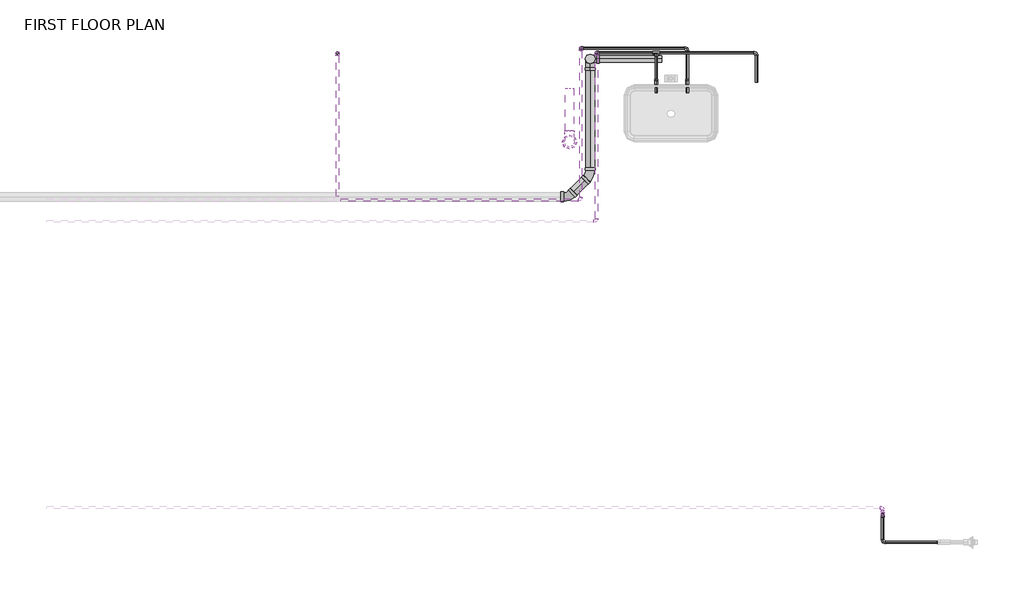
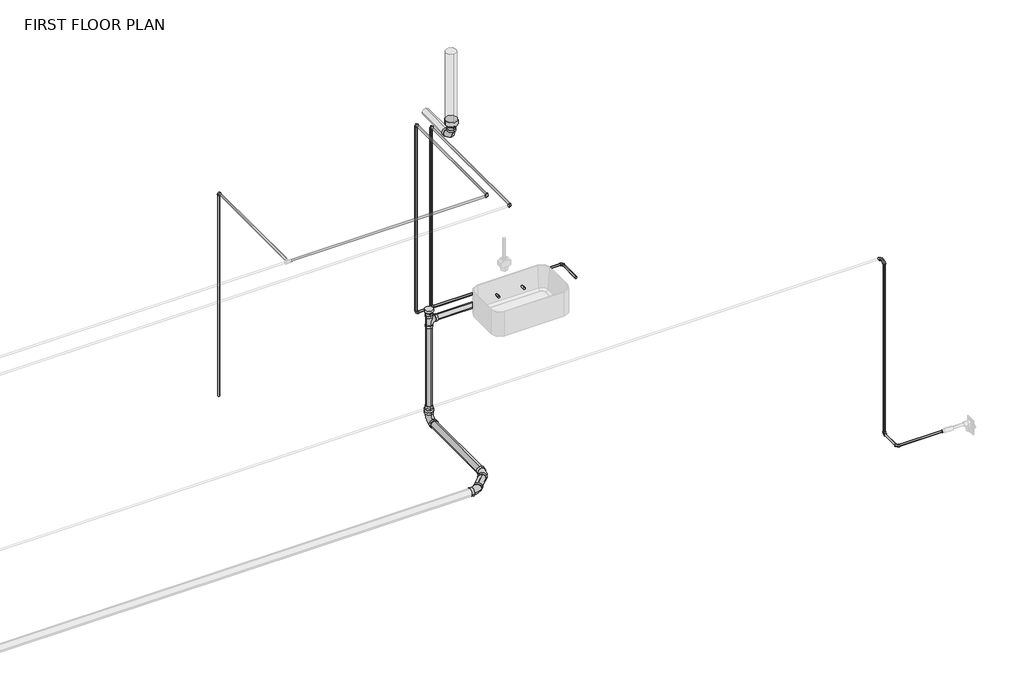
# One storey, part 5 of 5: 27 pipe fittings, 27 pipe segments.
"""IFC4 building model written with IfcOpenShell, lengths in millimetres."""

from ifc_helpers import new_model, si_unit, point, frame, frame_2d, origin, place, context, project, spatial, circle_curve, trimmed, segment, composite_curve, outline, extrude, transform, mapped, element, save
from components import bend_pvc_sch_40_dwv_standard_1eaeee76, bend_pvc_sch_40_dwv_standard_fdf790a6, bend_pvc_sch_40_dwv_standard_f5a66049, pipe_elbow_copper_k_aad62f2d, pipe_elbow_copper_k_6db47918, pipe_tee_copper_k_1a6ca384, pipe_transition_copper_k_7620e501, reducer_pvc_sch_40_dwv_standard_b23fa098, reducer_pvc_sch_40_dwv_standard_230e9924, reducer_pvc_sch_40_dwv_standard_44865e00, tee_sanitary_pvc_sch_40_dwv_standard_b95f781d

model = new_model("IFC4")

# Units and contexts
model_context = context("Model", 3, world=origin())
ifc_project = project(units=[si_unit("LENGTHUNIT", "METRE", prefix="MILLI")], contexts=[model_context])

# Site, building, storey
site = spatial("IfcSite", under=ifc_project)
building = spatial("IfcBuilding", under=site)
storey = spatial("IfcBuildingStorey", under=building, Name="FIRST FLOOR PLAN", Elevation=0.0)

# Pipe fittings
placement = place(None, origin())
bend_pvc_sch_40_dwv_standard_shape = bend_pvc_sch_40_dwv_standard_1eaeee76(model_context)
element("IfcPipeFitting", 1, ObjectType="Bend - PVC - Sch 40 - DWV : Standard", at=placement, inside=storey, context=model_context, shape_type="MappedRepresentation", body=[
    mapped(bend_pvc_sch_40_dwv_standard_shape, transform((123.6124949, 5544.3293502, -311.2949136), x_axis=(0.0, 0.0, -1.0), y_axis=(0.0, -1.0, 0.0), z_axis=(-1.0, 0.0, 0.0))),
])
bend_pvc_sch_40_dwv_standard_2_shape = bend_pvc_sch_40_dwv_standard_fdf790a6(model_context)
element("IfcPipeFitting", 2, ObjectType="Bend - PVC - Sch 40 - DWV : Standard", at=placement, inside=storey, context=model_context, shape_type="MappedRepresentation", body=[
    mapped(bend_pvc_sch_40_dwv_standard_2_shape, transform((-20.9709, 4968.853047, 2610.9744792), x_axis=(0.0, -0.9999457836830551, 0.010412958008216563), y_axis=(0.0, 0.010412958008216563, 0.9999457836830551), z_axis=(-1.0, 0.0, 0.0))),
])
bend_pvc_sch_40_dwv_standard_3_shape = bend_pvc_sch_40_dwv_standard_f5a66049(model_context)
element("IfcPipeFitting", 3, ObjectType="Bend - PVC - Sch 40 - DWV : Standard", at=placement, inside=storey, context=model_context, shape_type="MappedRepresentation", body=[
    mapped(bend_pvc_sch_40_dwv_standard_3_shape, transform((123.6124949, 4741.2065323, -311.2949136), x_axis=(0.707030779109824, 0.7070307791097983, 0.014661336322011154), y_axis=(-0.7068788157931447, 0.707182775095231, -0.014658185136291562), z_axis=(-0.020732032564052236, 0.0, 0.999785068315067))),
])
element("IfcPipeFitting", 4, ObjectType="Bend - PVC - Sch 40 - DWV : Standard", at=placement, inside=storey, context=model_context, shape_type="MappedRepresentation", body=[
    mapped(bend_pvc_sch_40_dwv_standard_3_shape, transform((-26.9683936, 4590.6256439, -314.4174326), x_axis=(1.0, 0.0, 0.0), y_axis=(0.0, 0.999785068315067, 0.020732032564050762), z_axis=(0.0, -0.020732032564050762, 0.999785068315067))),
])
pipe_elbow_copper_k_shape = pipe_elbow_copper_k_aad62f2d(model_context)
element("IfcPipeFitting", 5, ObjectType="Pipe Elbow : Copper- K", at=placement, inside=storey, context=model_context, shape_type="MappedRepresentation", body=[
    mapped(pipe_elbow_copper_k_shape, transform((165.6690598, 5587.2176405, 2263.2789062), x_axis=(0.0, 1.0, 0.0), y_axis=(0.0, 0.0, -1.0), z_axis=(-1.0, 0.0, 0.0))),
])
element("IfcPipeFitting", 6, ObjectType="Pipe Elbow : Copper- K", at=placement, inside=storey, context=model_context, shape_type="MappedRepresentation", body=[
    mapped(pipe_elbow_copper_k_shape, transform((57.8380491, 5618.9676405, 2298.2390728), x_axis=(0.0, 1.0, 0.0), y_axis=(0.0, 0.0, -1.0), z_axis=(-1.0, 0.0, 0.0))),
])
element("IfcPipeFitting", 7, ObjectType="Pipe Elbow : Copper- K", at=placement, inside=storey, context=model_context, shape_type="MappedRepresentation", body=[
    mapped(pipe_elbow_copper_k_shape, transform((57.8380491, 4569.6275273, 2298.2390728), x_axis=(1.0, 0.0, 0.0), y_axis=(0.0, 1.0, 0.0), z_axis=(0.0, 0.0, 1.0))),
])
element("IfcPipeFitting", 8, ObjectType="Pipe Elbow : Copper- K", at=placement, inside=storey, context=model_context, shape_type="MappedRepresentation", body=[
    mapped(pipe_elbow_copper_k_shape, transform((165.6690598, 4421.9926405, 2263.2789062), x_axis=(1.0, 0.0, 0.0), y_axis=(0.0, 1.0, 0.0), z_axis=(0.0, 0.0, 1.0))),
])
element("IfcPipeFitting", 9, ObjectType="Pipe Elbow : Copper- K", at=placement, inside=storey, context=model_context, shape_type="MappedRepresentation", body=[
    mapped(pipe_elbow_copper_k_shape, transform((-1625.4715551, 5585.6301405, 2298.2390728), x_axis=(0.0, 0.0, 1.0), y_axis=(0.0, -1.0, 0.0), z_axis=(1.0, 0.0, 0.0))),
])
element("IfcPipeFitting", 10, ObjectType="Pipe Elbow : Copper- K", at=placement, inside=storey, context=model_context, shape_type="MappedRepresentation", body=[
    mapped(pipe_elbow_copper_k_shape, transform((2144.6737513, 2391.8144205, 2298.2390728), x_axis=(0.0, -1.0, 0.0), y_axis=(0.0, 0.0, -1.0), z_axis=(1.0, 0.0, 0.0))),
])
element("IfcPipeFitting", 11, ObjectType="Pipe Elbow : Copper- K", at=placement, inside=storey, context=model_context, shape_type="MappedRepresentation", body=[
    mapped(pipe_elbow_copper_k_shape, transform((2144.6737513, 2391.8144205, 765.96875), x_axis=(0.0, 0.0, -1.0), y_axis=(0.0, -1.0, 0.0), z_axis=(-1.0, 0.0, 0.0))),
])
element("IfcPipeFitting", 12, ObjectType="Pipe Elbow : Copper- K", at=placement, inside=storey, context=model_context, shape_type="MappedRepresentation", body=[
    mapped(pipe_elbow_copper_k_shape, transform((2144.6737513, 2202.6342063, 765.96875), x_axis=(0.0, -1.0, 0.0), y_axis=(1.0, 0.0, 0.0), z_axis=(0.0, 0.0, 1.0))),
])
element("IfcPipeFitting", 13, ObjectType="Pipe Elbow : Copper- K", at=placement, inside=storey, context=model_context, shape_type="MappedRepresentation", body=[
    mapped(pipe_elbow_copper_k_shape, transform((2144.6737513, 2442.6144205, 2298.2390728), x_axis=(0.0, 1.0, 0.0), y_axis=(-1.0, 0.0, 0.0), z_axis=(0.0, 0.0, 1.0))),
])
element("IfcPipeFitting", 14, ObjectType="Pipe Elbow : Copper- K", at=placement, inside=storey, context=model_context, shape_type="MappedRepresentation", body=[
    mapped(pipe_elbow_copper_k_shape, transform((165.6690598, 5587.2176405, 647.9894589), x_axis=(0.0, 0.0, -1.0), y_axis=(1.0, 0.0, 0.0), z_axis=(0.0, -1.0, 0.0))),
])
element("IfcPipeFitting", 15, ObjectType="Pipe Elbow : Copper- K", at=placement, inside=storey, context=model_context, shape_type="MappedRepresentation", body=[
    mapped(pipe_elbow_copper_k_shape, transform((57.8380491, 5618.9676405, 617.267886), x_axis=(0.0, 0.0, -1.0), y_axis=(1.0, 0.0, 0.0), z_axis=(0.0, -1.0, 0.0))),
])
element("IfcPipeFitting", 16, ObjectType="Pipe Elbow : Copper- K", at=placement, inside=storey, context=model_context, shape_type="MappedRepresentation", body=[
    mapped(pipe_elbow_copper_k_shape, transform((794.4380491, 5618.9676405, 617.267886), x_axis=(0.0, 1.0, 0.0), y_axis=(-1.0, 0.0, 0.0), z_axis=(0.0, 0.0, 1.0))),
])
element("IfcPipeFitting", 17, ObjectType="Pipe Elbow : Copper- K", at=placement, inside=storey, context=model_context, shape_type="MappedRepresentation", body=[
    mapped(pipe_elbow_copper_k_shape, transform((794.4380491, 5387.1926405, 617.267886), x_axis=(0.0, -1.0, 0.0), y_axis=(0.0, 0.0, 1.0), z_axis=(-1.0, 0.0, 0.0))),
])
element("IfcPipeFitting", 18, ObjectType="Pipe Elbow : Copper- K", at=placement, inside=storey, context=model_context, shape_type="MappedRepresentation", body=[
    mapped(pipe_elbow_copper_k_shape, transform((794.4380491, 5387.1926405, 762.0), x_axis=(0.0, 0.0, 1.0), y_axis=(0.0, -1.0, 0.0), z_axis=(1.0, 0.0, 0.0))),
])
element("IfcPipeFitting", 19, ObjectType="Pipe Elbow : Copper- K", at=placement, inside=storey, context=model_context, shape_type="MappedRepresentation", body=[
    mapped(pipe_elbow_copper_k_shape, transform((578.8696873, 5387.1926405, 762.0), x_axis=(0.0, 0.0, 1.0), y_axis=(0.0, -1.0, 0.0), z_axis=(1.0, 0.0, 0.0))),
])
element("IfcPipeFitting", 20, ObjectType="Pipe Elbow : Copper- K", at=placement, inside=storey, context=model_context, shape_type="MappedRepresentation", body=[
    mapped(pipe_elbow_copper_k_shape, transform((1272.6071873, 5587.2176405, 647.9976562), x_axis=(0.0, 1.0, 0.0), y_axis=(-0.9999999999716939, 0.0, -7.524112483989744e-06), z_axis=(-7.524112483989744e-06, 0.0, 0.9999999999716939))),
])
pipe_elbow_copper_k_2_shape = pipe_elbow_copper_k_6db47918(model_context)
element("IfcPipeFitting", 21, ObjectType="Pipe Elbow : Copper- K", at=placement, inside=storey, context=model_context, shape_type="MappedRepresentation", body=[
    mapped(pipe_elbow_copper_k_2_shape, transform((578.8696873, 5387.1926405, 647.9891314), x_axis=(0.0, 0.0, -1.0), y_axis=(0.0, 1.0, 0.0), z_axis=(1.0, 0.0, 0.0))),
])
pipe_tee_copper_k_shape = pipe_tee_copper_k_1a6ca384(model_context)
element("IfcPipeFitting", 22, ObjectType="Pipe Tee : Copper- K", at=placement, inside=storey, context=model_context, shape_type="MappedRepresentation", body=[
    mapped(pipe_tee_copper_k_shape, transform((578.8696873, 5587.2176405, 647.9924365), x_axis=(-0.9999999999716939, 0.0, -7.524112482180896e-06), y_axis=(0.0, 1.0, 0.0), z_axis=(7.524112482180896e-06, 0.0, -0.9999999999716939))),
])
pipe_transition_copper_k_shape = pipe_transition_copper_k_7620e501(model_context)
element("IfcPipeFitting", 23, ObjectType="Pipe Transition : Copper- K", at=placement, inside=storey, context=model_context, shape_type="MappedRepresentation", body=[
    mapped(pipe_transition_copper_k_shape, transform((2525.6636233, 2202.6342063, 765.96875), x_axis=(-1.0, 0.0, 0.0), y_axis=(0.0, -1.0, 0.0), z_axis=(0.0, 0.0, 1.0))),
])
reducer_pvc_sch_40_dwv_standard_shape = reducer_pvc_sch_40_dwv_standard_b23fa098(model_context)
element("IfcPipeFitting", 24, ObjectType="Reducer - PVC - Sch 40 - DWV : Standard", at=placement, inside=storey, context=model_context, shape_type="MappedRepresentation", body=[
    mapped(reducer_pvc_sch_40_dwv_standard_shape, transform((123.6124949, 5544.3293502, -233.4947136), x_axis=(0.0, 0.0, 1.0), y_axis=(-1.0, 0.0, 0.0), z_axis=(0.0, -1.0, 0.0))),
])
reducer_pvc_sch_40_dwv_standard_2_shape = reducer_pvc_sch_40_dwv_standard_230e9924(model_context)
element("IfcPipeFitting", 25, ObjectType="Reducer - PVC - Sch 40 - DWV : Standard", at=placement, inside=storey, context=model_context, shape_type="MappedRepresentation", body=[
    mapped(reducer_pvc_sch_40_dwv_standard_2_shape, transform((123.6124949, 5544.3293502, 623.781292), x_axis=(0.0, 0.0, 1.0), y_axis=(0.0, -1.0, 0.0), z_axis=(1.0, 0.0, 0.0))),
])
reducer_pvc_sch_40_dwv_standard_3_shape = reducer_pvc_sch_40_dwv_standard_44865e00(model_context)
element("IfcPipeFitting", 26, ObjectType="Reducer - PVC - Sch 40 - DWV : Standard", at=placement, inside=storey, context=model_context, shape_type="MappedRepresentation", body=[
    mapped(reducer_pvc_sch_40_dwv_standard_3_shape, transform((-20.9709, 4968.853047, 2688.7746792), x_axis=(0.0, 0.0, 1.0), y_axis=(0.0, -1.0, 0.0), z_axis=(1.0, 0.0, 0.0))),
])
tee_sanitary_pvc_sch_40_dwv_standard_shape = tee_sanitary_pvc_sch_40_dwv_standard_b95f781d(model_context)
element("IfcPipeFitting", 27, ObjectType="Tee Sanitary - PVC - Sch 40 - DWV : Standard", at=placement, inside=storey, context=model_context, shape_type="MappedRepresentation", body=[
    mapped(tee_sanitary_pvc_sch_40_dwv_standard_shape, transform((123.6124949, 5544.3293502, 578.0484371), x_axis=(0.0, 0.0, 1.0), y_axis=(-1.0, 0.0, 0.0), z_axis=(0.0, -1.0, 0.0))),
])

# Pipe segments
element("IfcPipeSegment", 28, ObjectType="Copper", at=placement, inside=storey, context=model_context, shape_type="SweptSolid", body=[
    extrude(outline(composite_curve([segment(trimmed(circle_curve(frame_2d((2298.2390728, 57.8380491)), 7.9375), [point((2298.2390728, 65.7755491))], [point((2306.1765728, 57.8380491))], False, "CARTESIAN"), True, "CONTINUOUS"), segment(trimmed(circle_curve(frame_2d((2298.2390728, 57.8380491)), 7.9375), [point((2306.1765728, 57.8380491))], [point((2298.2390728, 49.9005491))], False, "CARTESIAN"), True, "CONTINUOUS"), segment(trimmed(circle_curve(frame_2d((2298.2390728, 57.8380491)), 7.9375), [point((2298.2390728, 49.9005491))], [point((2290.3015728, 57.8380491))], False, "CARTESIAN"), True, "CONTINUOUS"), segment(trimmed(circle_curve(frame_2d((2298.2390728, 57.8380491)), 7.9375), [point((2290.3015728, 57.8380491))], [point((2298.2390728, 65.7755491))], False, "CARTESIAN"), True, "CONTINUOUS")], self_intersect=False)), frame((0.0, 4587.0900273, 0.0), z_axis=(0.0, 1.0, 0.0), x_axis=(0.0, 0.0, 1.0)), (0.0, 0.0, 1.0), 1014.4151132),
])
element("IfcPipeSegment", 29, ObjectType="Copper", at=placement, inside=storey, context=model_context, shape_type="SweptSolid", body=[
    extrude(outline(composite_curve([segment(trimmed(circle_curve(frame_2d((2263.2789062, 165.6690598)), 7.9375), [point((2263.2789062, 173.6065598))], [point((2271.2164062, 165.6690598))], False, "CARTESIAN"), True, "CONTINUOUS"), segment(trimmed(circle_curve(frame_2d((2263.2789062, 165.6690598)), 7.9375), [point((2271.2164062, 165.6690598))], [point((2263.2789062, 157.7315598))], False, "CARTESIAN"), True, "CONTINUOUS"), segment(trimmed(circle_curve(frame_2d((2263.2789062, 165.6690598)), 7.9375), [point((2263.2789062, 157.7315598))], [point((2255.3414062, 165.6690598))], False, "CARTESIAN"), True, "CONTINUOUS"), segment(trimmed(circle_curve(frame_2d((2263.2789062, 165.6690598)), 7.9375), [point((2255.3414062, 165.6690598))], [point((2263.2789062, 173.6065598))], False, "CARTESIAN"), True, "CONTINUOUS")], self_intersect=False)), frame((0.0, 4439.4551405, 0.0), z_axis=(0.0, 1.0, 0.0), x_axis=(0.0, 0.0, 1.0)), (0.0, 0.0, 1.0), 1130.3),
])
element("IfcPipeSegment", 30, ObjectType="Copper", at=placement, inside=storey, context=model_context, shape_type="SweptSolid", body=[
    extrude(outline(composite_curve([segment(trimmed(circle_curve(frame_2d((165.6690598, 5587.2176405)), 7.9375), [point((173.6065598, 5587.2176405))], [point((165.6690598, 5579.2801405))], False, "CARTESIAN"), True, "CONTINUOUS"), segment(trimmed(circle_curve(frame_2d((165.6690598, 5587.2176405)), 7.9375), [point((165.6690598, 5579.2801405))], [point((157.7315598, 5587.2176405))], False, "CARTESIAN"), True, "CONTINUOUS"), segment(trimmed(circle_curve(frame_2d((165.6690598, 5587.2176405)), 7.9375), [point((157.7315598, 5587.2176405))], [point((165.6690598, 5595.1551405))], False, "CARTESIAN"), True, "CONTINUOUS"), segment(trimmed(circle_curve(frame_2d((165.6690598, 5587.2176405)), 7.9375), [point((165.6690598, 5595.1551405))], [point((173.6065598, 5587.2176405))], False, "CARTESIAN"), True, "CONTINUOUS")], self_intersect=False)), frame((0.0, 0.0, 665.4519589), z_axis=(0.0, 0.0, 1.0), x_axis=(1.0, 0.0, 0.0)), (0.0, 0.0, 1.0), 1580.3644473),
])
element("IfcPipeSegment", 31, ObjectType="Copper", at=placement, inside=storey, context=model_context, shape_type="SweptSolid", body=[
    extrude(outline(composite_curve([segment(trimmed(circle_curve(frame_2d((57.8380491, 5618.9676405)), 7.9375), [point((65.7755491, 5618.9676405))], [point((57.8380491, 5611.0301405))], False, "CARTESIAN"), True, "CONTINUOUS"), segment(trimmed(circle_curve(frame_2d((57.8380491, 5618.9676405)), 7.9375), [point((57.8380491, 5611.0301405))], [point((49.9005491, 5618.9676405))], False, "CARTESIAN"), True, "CONTINUOUS"), segment(trimmed(circle_curve(frame_2d((57.8380491, 5618.9676405)), 7.9375), [point((49.9005491, 5618.9676405))], [point((57.8380491, 5626.9051405))], False, "CARTESIAN"), True, "CONTINUOUS"), segment(trimmed(circle_curve(frame_2d((57.8380491, 5618.9676405)), 7.9375), [point((57.8380491, 5626.9051405))], [point((65.7755491, 5618.9676405))], False, "CARTESIAN"), True, "CONTINUOUS")], self_intersect=False)), frame((0.0, 0.0, 634.730386), z_axis=(0.0, 0.0, 1.0), x_axis=(1.0, 0.0, 0.0)), (0.0, 0.0, 1.0), 1646.0461868),
])
element("IfcPipeSegment", 32, ObjectType="Copper", at=placement, inside=storey, context=model_context, shape_type="SweptSolid", body=[
    extrude(outline(composite_curve([segment(trimmed(circle_curve(frame_2d((2298.2390728, -1625.4715551)), 7.9375), [point((2298.2390728, -1633.4090551))], [point((2290.3015728, -1625.4715551))], False, "CARTESIAN"), True, "CONTINUOUS"), segment(trimmed(circle_curve(frame_2d((2298.2390728, -1625.4715551)), 7.9375), [point((2290.3015728, -1625.4715551))], [point((2298.2390728, -1617.5340551))], False, "CARTESIAN"), True, "CONTINUOUS"), segment(trimmed(circle_curve(frame_2d((2298.2390728, -1625.4715551)), 7.9375), [point((2298.2390728, -1617.5340551))], [point((2306.1765728, -1625.4715551))], False, "CARTESIAN"), True, "CONTINUOUS"), segment(trimmed(circle_curve(frame_2d((2298.2390728, -1625.4715551)), 7.9375), [point((2306.1765728, -1625.4715551))], [point((2298.2390728, -1633.4090551))], False, "CARTESIAN"), True, "CONTINUOUS")], self_intersect=False)), frame((0.0, 4593.4400273, 0.0), z_axis=(0.0, 1.0, 0.0), x_axis=(0.0, 0.0, 1.0)), (0.0, 0.0, 1.0), 974.7276132),
])
element("IfcPipeSegment", 33, ObjectType="Copper", at=placement, inside=storey, context=model_context, shape_type="SweptSolid", body=[
    extrude(outline(composite_curve([segment(trimmed(circle_curve(frame_2d((-1625.4715551, 5585.6301405)), 7.9375), [point((-1617.5340551, 5585.6301405))], [point((-1625.4715551, 5577.6926405))], False, "CARTESIAN"), True, "CONTINUOUS"), segment(trimmed(circle_curve(frame_2d((-1625.4715551, 5585.6301405)), 7.9375), [point((-1625.4715551, 5577.6926405))], [point((-1633.4090551, 5585.6301405))], False, "CARTESIAN"), True, "CONTINUOUS"), segment(trimmed(circle_curve(frame_2d((-1625.4715551, 5585.6301405)), 7.9375), [point((-1633.4090551, 5585.6301405))], [point((-1625.4715551, 5593.5676405))], False, "CARTESIAN"), True, "CONTINUOUS"), segment(trimmed(circle_curve(frame_2d((-1625.4715551, 5585.6301405)), 7.9375), [point((-1625.4715551, 5593.5676405))], [point((-1617.5340551, 5585.6301405))], False, "CARTESIAN"), True, "CONTINUOUS")], self_intersect=False)), frame((0.0, 0.0, 485.2789063), z_axis=(0.0, 0.0, 1.0), x_axis=(1.0, 0.0, 0.0)), (0.0, 0.0, 1.0), 1795.4976666),
])
element("IfcPipeSegment", 34, ObjectType="Copper", at=placement, inside=storey, context=model_context, shape_type="SweptSolid", body=[
    extrude(outline(composite_curve([segment(trimmed(circle_curve(frame_2d((4569.6275273, 2298.2390728)), 7.9375), [point((4577.5650273, 2298.2390728))], [point((4569.6275273, 2290.3015728))], False, "CARTESIAN"), True, "CONTINUOUS"), segment(trimmed(circle_curve(frame_2d((4569.6275273, 2298.2390728)), 7.9375), [point((4569.6275273, 2290.3015728))], [point((4561.6900273, 2298.2390728))], False, "CARTESIAN"), True, "CONTINUOUS"), segment(trimmed(circle_curve(frame_2d((4569.6275273, 2298.2390728)), 7.9375), [point((4561.6900273, 2298.2390728))], [point((4569.6275273, 2306.1765728))], False, "CARTESIAN"), True, "CONTINUOUS"), segment(trimmed(circle_curve(frame_2d((4569.6275273, 2298.2390728)), 7.9375), [point((4569.6275273, 2306.1765728))], [point((4577.5650273, 2298.2390728))], False, "CARTESIAN"), True, "CONTINUOUS")], self_intersect=False)), frame((-1601.6590551, 0.0, 0.0), z_axis=(1.0, 0.0, 0.0), x_axis=(0.0, 1.0, 0.0)), (0.0, 0.0, 1.0), 1642.0346042),
])
element("IfcPipeSegment", 35, ObjectType="Copper", at=placement, inside=storey, context=model_context, shape_type="SweptSolid", body=[
    extrude(outline(composite_curve([segment(trimmed(circle_curve(frame_2d((2298.2390728, 2144.6737513)), 7.9375), [point((2298.2390728, 2136.7362513))], [point((2290.3015728, 2144.6737513))], False, "CARTESIAN"), True, "CONTINUOUS"), segment(trimmed(circle_curve(frame_2d((2298.2390728, 2144.6737513)), 7.9375), [point((2290.3015728, 2144.6737513))], [point((2298.2390728, 2152.6112513))], False, "CARTESIAN"), True, "CONTINUOUS"), segment(trimmed(circle_curve(frame_2d((2298.2390728, 2144.6737513)), 7.9375), [point((2298.2390728, 2152.6112513))], [point((2306.1765728, 2144.6737513))], False, "CARTESIAN"), True, "CONTINUOUS"), segment(trimmed(circle_curve(frame_2d((2298.2390728, 2144.6737513)), 7.9375), [point((2306.1765728, 2144.6737513))], [point((2298.2390728, 2136.7362513))], False, "CARTESIAN"), True, "CONTINUOUS")], self_intersect=False)), frame((0.0, 2409.2769205, 0.0), z_axis=(0.0, 1.0, 0.0), x_axis=(0.0, 0.0, 1.0)), (0.0, 0.0, 1.0), 15.875),
])
element("IfcPipeSegment", 36, ObjectType="Copper", at=placement, inside=storey, context=model_context, shape_type="SweptSolid", body=[
    extrude(outline(composite_curve([segment(trimmed(circle_curve(frame_2d((765.96875, 2144.6737513)), 7.9375), [point((765.96875, 2136.7362513))], [point((758.03125, 2144.6737513))], False, "CARTESIAN"), True, "CONTINUOUS"), segment(trimmed(circle_curve(frame_2d((765.96875, 2144.6737513)), 7.9375), [point((758.03125, 2144.6737513))], [point((765.96875, 2152.6112513))], False, "CARTESIAN"), True, "CONTINUOUS"), segment(trimmed(circle_curve(frame_2d((765.96875, 2144.6737513)), 7.9375), [point((765.96875, 2152.6112513))], [point((773.90625, 2144.6737513))], False, "CARTESIAN"), True, "CONTINUOUS"), segment(trimmed(circle_curve(frame_2d((765.96875, 2144.6737513)), 7.9375), [point((773.90625, 2144.6737513))], [point((765.96875, 2136.7362513))], False, "CARTESIAN"), True, "CONTINUOUS")], self_intersect=False)), frame((0.0, 2220.0967063, 0.0), z_axis=(0.0, 1.0, 0.0), x_axis=(0.0, 0.0, 1.0)), (0.0, 0.0, 1.0), 154.2552142),
])
element("IfcPipeSegment", 37, ObjectType="Copper", at=placement, inside=storey, context=model_context, shape_type="SweptSolid", body=[
    extrude(outline(composite_curve([segment(trimmed(circle_curve(frame_2d((2144.6737513, 2391.8144205)), 7.9375), [point((2152.6112513, 2391.8144205))], [point((2144.6737513, 2383.8769205))], False, "CARTESIAN"), True, "CONTINUOUS"), segment(trimmed(circle_curve(frame_2d((2144.6737513, 2391.8144205)), 7.9375), [point((2144.6737513, 2383.8769205))], [point((2136.7362513, 2391.8144205))], False, "CARTESIAN"), True, "CONTINUOUS"), segment(trimmed(circle_curve(frame_2d((2144.6737513, 2391.8144205)), 7.9375), [point((2136.7362513, 2391.8144205))], [point((2144.6737513, 2399.7519205))], False, "CARTESIAN"), True, "CONTINUOUS"), segment(trimmed(circle_curve(frame_2d((2144.6737513, 2391.8144205)), 7.9375), [point((2144.6737513, 2399.7519205))], [point((2152.6112513, 2391.8144205))], False, "CARTESIAN"), True, "CONTINUOUS")], self_intersect=False)), frame((0.0, 0.0, 783.43125), z_axis=(0.0, 0.0, 1.0), x_axis=(1.0, 0.0, 0.0)), (0.0, 0.0, 1.0), 1497.3453228),
])
element("IfcPipeSegment", 38, ObjectType="Copper", at=placement, inside=storey, context=model_context, shape_type="SweptSolid", body=[
    extrude(outline(composite_curve([segment(trimmed(circle_curve(frame_2d((2202.6342063, 765.96875)), 7.9375), [point((2210.5717063, 765.96875))], [point((2202.6342063, 758.03125))], False, "CARTESIAN"), True, "CONTINUOUS"), segment(trimmed(circle_curve(frame_2d((2202.6342063, 765.96875)), 7.9375), [point((2202.6342063, 758.03125))], [point((2194.6967063, 765.96875))], False, "CARTESIAN"), True, "CONTINUOUS"), segment(trimmed(circle_curve(frame_2d((2202.6342063, 765.96875)), 7.9375), [point((2194.6967063, 765.96875))], [point((2202.6342063, 773.90625))], False, "CARTESIAN"), True, "CONTINUOUS"), segment(trimmed(circle_curve(frame_2d((2202.6342063, 765.96875)), 7.9375), [point((2202.6342063, 773.90625))], [point((2210.5717063, 765.96875))], False, "CARTESIAN"), True, "CONTINUOUS")], self_intersect=False)), frame((2162.1362513, 0.0, 0.0), z_axis=(1.0, 0.0, 0.0), x_axis=(0.0, 1.0, 0.0)), (0.0, 0.0, 1.0), 357.971122),
])
element("IfcPipeSegment", 39, ObjectType="Copper", at=placement, inside=storey, context=model_context, shape_type="SweptSolid", body=[
    extrude(outline(composite_curve([segment(trimmed(circle_curve(frame_2d((647.9924365, 578.8696873)), 7.9375), [point((647.9924365, 570.9321873))], [point((640.0549365, 578.8696873))], False, "CARTESIAN"), True, "CONTINUOUS"), segment(trimmed(circle_curve(frame_2d((647.9924365, 578.8696873)), 7.9375), [point((640.0549365, 578.8696873))], [point((647.9924365, 586.8071873))], False, "CARTESIAN"), True, "CONTINUOUS"), segment(trimmed(circle_curve(frame_2d((647.9924365, 578.8696873)), 7.9375), [point((647.9924365, 586.8071873))], [point((655.9299365, 578.8696873))], False, "CARTESIAN"), True, "CONTINUOUS"), segment(trimmed(circle_curve(frame_2d((647.9924365, 578.8696873)), 7.9375), [point((655.9299365, 578.8696873))], [point((647.9924365, 570.9321873))], False, "CARTESIAN"), True, "CONTINUOUS")], self_intersect=False)), frame((0.0, 5404.6554681, 0.0), z_axis=(0.0, 1.0, 0.0), x_axis=(0.0, 0.0, 1.0)), (0.0, 0.0, 1.0), 158.7496725),
])
element("IfcPipeSegment", 40, ObjectType="Copper", at=placement, inside=storey, context=model_context, shape_type="SweptSolid", body=[
    extrude(outline(composite_curve([segment(trimmed(circle_curve(frame_2d((5618.9676405, 617.267886)), 7.9375), [point((5611.0301405, 617.267886))], [point((5618.9676405, 625.205386))], False, "CARTESIAN"), True, "CONTINUOUS"), segment(trimmed(circle_curve(frame_2d((5618.9676405, 617.267886)), 7.9375), [point((5618.9676405, 625.205386))], [point((5626.9051405, 617.267886))], False, "CARTESIAN"), True, "CONTINUOUS"), segment(trimmed(circle_curve(frame_2d((5618.9676405, 617.267886)), 7.9375), [point((5626.9051405, 617.267886))], [point((5618.9676405, 609.330386))], False, "CARTESIAN"), True, "CONTINUOUS"), segment(trimmed(circle_curve(frame_2d((5618.9676405, 617.267886)), 7.9375), [point((5618.9676405, 609.330386))], [point((5611.0301405, 617.267886))], False, "CARTESIAN"), True, "CONTINUOUS")], self_intersect=False)), frame((75.3005491, 0.0, 0.0), z_axis=(1.0, 0.0, 0.0), x_axis=(0.0, 1.0, 0.0)), (0.0, 0.0, 1.0), 701.675),
])
element("IfcPipeSegment", 41, ObjectType="Copper", at=placement, inside=storey, context=model_context, shape_type="SweptSolid", body=[
    extrude(outline(composite_curve([segment(trimmed(circle_curve(frame_2d((617.267886, 794.4380491)), 7.9375), [point((617.267886, 786.5005491))], [point((609.330386, 794.4380491))], False, "CARTESIAN"), True, "CONTINUOUS"), segment(trimmed(circle_curve(frame_2d((617.267886, 794.4380491)), 7.9375), [point((609.330386, 794.4380491))], [point((617.267886, 802.3755491))], False, "CARTESIAN"), True, "CONTINUOUS"), segment(trimmed(circle_curve(frame_2d((617.267886, 794.4380491)), 7.9375), [point((617.267886, 802.3755491))], [point((625.205386, 794.4380491))], False, "CARTESIAN"), True, "CONTINUOUS"), segment(trimmed(circle_curve(frame_2d((617.267886, 794.4380491)), 7.9375), [point((625.205386, 794.4380491))], [point((617.267886, 786.5005491))], False, "CARTESIAN"), True, "CONTINUOUS")], self_intersect=False)), frame((0.0, 5404.6551405, 0.0), z_axis=(0.0, 1.0, 0.0), x_axis=(0.0, 0.0, 1.0)), (0.0, 0.0, 1.0), 196.85),
])
element("IfcPipeSegment", 42, ObjectType="Copper", at=placement, inside=storey, context=model_context, shape_type="SweptSolid", body=[
    extrude(outline(composite_curve([segment(trimmed(circle_curve(frame_2d((762.0, 794.4380491)), 7.9375), [point((762.0, 786.5005491))], [point((754.0625, 794.4380491))], False, "CARTESIAN"), True, "CONTINUOUS"), segment(trimmed(circle_curve(frame_2d((762.0, 794.4380491)), 7.9375), [point((754.0625, 794.4380491))], [point((762.0, 802.3755491))], False, "CARTESIAN"), True, "CONTINUOUS"), segment(trimmed(circle_curve(frame_2d((762.0, 794.4380491)), 7.9375), [point((762.0, 802.3755491))], [point((769.9375, 794.4380491))], False, "CARTESIAN"), True, "CONTINUOUS"), segment(trimmed(circle_curve(frame_2d((762.0, 794.4380491)), 7.9375), [point((769.9375, 794.4380491))], [point((762.0, 786.5005491))], False, "CARTESIAN"), True, "CONTINUOUS")], self_intersect=False)), frame((0.0, 5310.9926405, 0.0), z_axis=(0.0, 1.0, 0.0), x_axis=(0.0, 0.0, 1.0)), (0.0, 0.0, 1.0), 58.7375),
])
element("IfcPipeSegment", 43, ObjectType="Copper", at=placement, inside=storey, context=model_context, shape_type="SweptSolid", body=[
    extrude(outline(composite_curve([segment(trimmed(circle_curve(frame_2d((794.4380491, 5387.1926405)), 7.9375), [point((786.5005491, 5387.1926405))], [point((794.4380491, 5395.1301405))], False, "CARTESIAN"), True, "CONTINUOUS"), segment(trimmed(circle_curve(frame_2d((794.4380491, 5387.1926405)), 7.9375), [point((794.4380491, 5395.1301405))], [point((802.3755491, 5387.1926405))], False, "CARTESIAN"), True, "CONTINUOUS"), segment(trimmed(circle_curve(frame_2d((794.4380491, 5387.1926405)), 7.9375), [point((802.3755491, 5387.1926405))], [point((794.4380491, 5379.2551405))], False, "CARTESIAN"), True, "CONTINUOUS"), segment(trimmed(circle_curve(frame_2d((794.4380491, 5387.1926405)), 7.9375), [point((794.4380491, 5379.2551405))], [point((786.5005491, 5387.1926405))], False, "CARTESIAN"), True, "CONTINUOUS")], self_intersect=False)), frame((0.0, 0.0, 634.730386), z_axis=(0.0, 0.0, 1.0), x_axis=(1.0, 0.0, 0.0)), (0.0, 0.0, 1.0), 109.807114),
])
element("IfcPipeSegment", 44, ObjectType="Copper", at=placement, inside=storey, context=model_context, shape_type="SweptSolid", body=[
    extrude(outline(composite_curve([segment(trimmed(circle_curve(frame_2d((762.0, 578.8696873)), 7.9375), [point((762.0, 570.9321873))], [point((754.0625, 578.8696873))], False, "CARTESIAN"), True, "CONTINUOUS"), segment(trimmed(circle_curve(frame_2d((762.0, 578.8696873)), 7.9375), [point((754.0625, 578.8696873))], [point((762.0, 586.8071873))], False, "CARTESIAN"), True, "CONTINUOUS"), segment(trimmed(circle_curve(frame_2d((762.0, 578.8696873)), 7.9375), [point((762.0, 586.8071873))], [point((769.9375, 578.8696873))], False, "CARTESIAN"), True, "CONTINUOUS"), segment(trimmed(circle_curve(frame_2d((762.0, 578.8696873)), 7.9375), [point((769.9375, 578.8696873))], [point((762.0, 570.9321873))], False, "CARTESIAN"), True, "CONTINUOUS")], self_intersect=False)), frame((0.0, 5310.9926405, 0.0), z_axis=(0.0, 1.0, 0.0), x_axis=(0.0, 0.0, 1.0)), (0.0, 0.0, 1.0), 58.7375),
])
element("IfcPipeSegment", 45, ObjectType="Copper", at=placement, inside=storey, context=model_context, shape_type="SweptSolid", body=[
    extrude(outline(composite_curve([segment(trimmed(circle_curve(frame_2d((578.8696873, 5387.1926405)), 7.9375), [point((570.9321873, 5387.1926405))], [point((578.8696873, 5395.1301405))], False, "CARTESIAN"), True, "CONTINUOUS"), segment(trimmed(circle_curve(frame_2d((578.8696873, 5387.1926405)), 7.9375), [point((578.8696873, 5395.1301405))], [point((586.8071873, 5387.1926405))], False, "CARTESIAN"), True, "CONTINUOUS"), segment(trimmed(circle_curve(frame_2d((578.8696873, 5387.1926405)), 7.9375), [point((586.8071873, 5387.1926405))], [point((578.8696873, 5379.2551405))], False, "CARTESIAN"), True, "CONTINUOUS"), segment(trimmed(circle_curve(frame_2d((578.8696873, 5387.1926405)), 7.9375), [point((578.8696873, 5379.2551405))], [point((570.9321873, 5387.1926405))], False, "CARTESIAN"), True, "CONTINUOUS")], self_intersect=False)), frame((0.0, 0.0, 665.4519589), z_axis=(0.0, 0.0, 1.0), x_axis=(1.0, 0.0, 0.0)), (0.0, 0.0, 1.0), 79.0855411),
])
element("IfcPipeSegment", 46, ObjectType="Copper", at=placement, inside=storey, context=model_context, shape_type="SweptSolid", body=[
    extrude(outline(composite_curve([segment(trimmed(circle_curve(frame_2d((0.0, 7.9375)), 7.9375), [point((-7.9375, 7.9375))], [point((0.0, 15.875))], False, "CARTESIAN"), True, "CONTINUOUS"), segment(trimmed(circle_curve(frame_2d((0.0, 7.9375)), 7.9375), [point((0.0, 15.875))], [point((7.9375, 7.9375))], False, "CARTESIAN"), True, "CONTINUOUS"), segment(trimmed(circle_curve(frame_2d((0.0, 7.9375)), 7.9375), [point((7.9375, 7.9375))], [point((0.0, 0.0))], False, "CARTESIAN"), True, "CONTINUOUS"), segment(trimmed(circle_curve(frame_2d((0.0, 7.9375)), 7.9375), [point((0.0, 0.0))], [point((-7.9375, 7.9375))], False, "CARTESIAN"), True, "CONTINUOUS")], self_intersect=False)), frame((602.682247, 5587.2176405, 640.0551157), z_axis=(0.9999999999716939, 0.0, 7.524112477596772e-06), x_axis=(0.0, 1.0, 0.0)), (0.0, 0.0, 1.0), 652.4625),
])
element("IfcPipeSegment", 47, ObjectType="Copper", at=placement, inside=storey, context=model_context, shape_type="SweptSolid", body=[
    extrude(outline(composite_curve([segment(trimmed(circle_curve(frame_2d((647.9976562, 1272.6071873)), 7.9375), [point((647.9976562, 1264.6696873))], [point((640.0601562, 1272.6071873))], False, "CARTESIAN"), True, "CONTINUOUS"), segment(trimmed(circle_curve(frame_2d((647.9976562, 1272.6071873)), 7.9375), [point((640.0601562, 1272.6071873))], [point((647.9976562, 1280.5446873))], False, "CARTESIAN"), True, "CONTINUOUS"), segment(trimmed(circle_curve(frame_2d((647.9976562, 1272.6071873)), 7.9375), [point((647.9976562, 1280.5446873))], [point((655.9351562, 1272.6071873))], False, "CARTESIAN"), True, "CONTINUOUS"), segment(trimmed(circle_curve(frame_2d((647.9976562, 1272.6071873)), 7.9375), [point((655.9351562, 1272.6071873))], [point((647.9976562, 1264.6696873))], False, "CARTESIAN"), True, "CONTINUOUS")], self_intersect=False)), frame((0.0, 5384.0176405, 0.0), z_axis=(0.0, 1.0, 0.0), x_axis=(0.0, 0.0, 1.0)), (0.0, 0.0, 1.0), 185.7375),
])
element("IfcPipeSegment", 48, ObjectType="Copper", at=placement, inside=storey, context=model_context, shape_type="SweptSolid", body=[
    extrude(outline(composite_curve([segment(trimmed(circle_curve(frame_2d((5587.2176405, 647.9894589)), 7.9375), [point((5579.2801405, 647.9894589))], [point((5587.2176405, 655.9269589))], False, "CARTESIAN"), True, "CONTINUOUS"), segment(trimmed(circle_curve(frame_2d((5587.2176405, 647.9894589)), 7.9375), [point((5587.2176405, 655.9269589))], [point((5595.1551405, 647.9894589))], False, "CARTESIAN"), True, "CONTINUOUS"), segment(trimmed(circle_curve(frame_2d((5587.2176405, 647.9894589)), 7.9375), [point((5595.1551405, 647.9894589))], [point((5587.2176405, 640.0519589))], False, "CARTESIAN"), True, "CONTINUOUS"), segment(trimmed(circle_curve(frame_2d((5587.2176405, 647.9894589)), 7.9375), [point((5587.2176405, 640.0519589))], [point((5579.2801405, 647.9894589))], False, "CARTESIAN"), True, "CONTINUOUS")], self_intersect=False)), frame((183.1315598, 0.0, 0.0), z_axis=(1.0, 0.0, 0.0), x_axis=(0.0, 1.0, 0.0)), (0.0, 0.0, 1.0), 371.9256275),
])
element("IfcPipeSegment", 49, ObjectType="PVC - SAN/STORM", at=placement, inside=storey, context=model_context, shape_type="SweptSolid", body=[
    extrude(outline(composite_curve([segment(trimmed(circle_curve(frame_2d((5544.3293502, 578.0501652)), 24.13), [point((5568.4593502, 578.0501652))], [point((5544.3293502, 553.9201652))], False, "CARTESIAN"), True, "CONTINUOUS"), segment(trimmed(circle_curve(frame_2d((5544.3293502, 578.0501652)), 24.13), [point((5544.3293502, 553.9201652))], [point((5520.1993502, 578.0501652))], False, "CARTESIAN"), True, "CONTINUOUS"), segment(trimmed(circle_curve(frame_2d((5544.3293502, 578.0501652)), 24.13), [point((5520.1993502, 578.0501652))], [point((5544.3293502, 602.1801652))], False, "CARTESIAN"), True, "CONTINUOUS"), segment(trimmed(circle_curve(frame_2d((5544.3293502, 578.0501652)), 24.13), [point((5544.3293502, 602.1801652))], [point((5568.4593502, 578.0501652))], False, "CARTESIAN"), True, "CONTINUOUS")], self_intersect=False)), frame((185.5122949, 0.0, 0.0), z_axis=(1.0, 0.0, 0.0), x_axis=(0.0, 1.0, 0.0)), (0.0, 0.0, 1.0), 433.3765289),
])
element("IfcPipeSegment", 50, ObjectType="PVC - SAN/STORM", at=placement, inside=storey, context=model_context, shape_type="SweptSolid", body=[
    extrude(outline(composite_curve([segment(trimmed(circle_curve(frame_2d((123.6124949, 5544.3293502)), 24.13), [point((147.7424949, 5544.3293502))], [point((123.6124949, 5520.1993502))], False, "CARTESIAN"), True, "CONTINUOUS"), segment(trimmed(circle_curve(frame_2d((123.6124949, 5544.3293502)), 24.13), [point((123.6124949, 5520.1993502))], [point((99.4824949, 5544.3293502))], False, "CARTESIAN"), True, "CONTINUOUS"), segment(trimmed(circle_curve(frame_2d((123.6124949, 5544.3293502)), 24.13), [point((99.4824949, 5544.3293502))], [point((123.6124949, 5568.4593502))], False, "CARTESIAN"), True, "CONTINUOUS"), segment(trimmed(circle_curve(frame_2d((123.6124949, 5544.3293502)), 24.13), [point((123.6124949, 5568.4593502))], [point((147.7424949, 5544.3293502))], False, "CARTESIAN"), True, "CONTINUOUS")], self_intersect=False)), frame((0.0, 0.0, -183.5075136), z_axis=(0.0, 0.0, 1.0), x_axis=(1.0, 0.0, 0.0)), (0.0, 0.0, 1.0), 699.6561508),
])
element("IfcPipeSegment", 51, ObjectType="PVC - SAN/STORM", at=placement, inside=storey, context=model_context, shape_type="SweptSolid", body=[
    extrude(outline(composite_curve([segment(trimmed(circle_curve(frame_2d((-311.2949136, 123.6124949)), 30.1625), [point((-311.2949136, 93.4499949))], [point((-341.4574136, 123.6124949))], False, "CARTESIAN"), True, "CONTINUOUS"), segment(trimmed(circle_curve(frame_2d((-311.2949136, 123.6124949)), 30.1625), [point((-341.4574136, 123.6124949))], [point((-311.2949136, 153.7749949))], False, "CARTESIAN"), True, "CONTINUOUS"), segment(trimmed(circle_curve(frame_2d((-311.2949136, 123.6124949)), 30.1625), [point((-311.2949136, 153.7749949))], [point((-281.1324136, 123.6124949))], False, "CARTESIAN"), True, "CONTINUOUS"), segment(trimmed(circle_curve(frame_2d((-311.2949136, 123.6124949)), 30.1625), [point((-281.1324136, 123.6124949))], [point((-311.2949136, 93.4499949))], False, "CARTESIAN"), True, "CONTINUOUS")], self_intersect=False)), frame((0.0, 4793.6067323, 0.0), z_axis=(0.0, 1.0, 0.0), x_axis=(0.0, 0.0, 1.0)), (0.0, 0.0, 1.0), 672.9224179),
])
element("IfcPipeSegment", 52, ObjectType="PVC - SAN/STORM", at=placement, inside=storey, context=model_context, shape_type="SweptSolid", body=[
    extrude(outline(composite_curve([segment(trimmed(circle_curve(frame_2d((0.0, 30.1625)), 30.1625), [point((-30.1625, 30.1625))], [point((0.0, 60.325))], False, "CARTESIAN"), True, "CONTINUOUS"), segment(trimmed(circle_curve(frame_2d((0.0, 30.1625)), 30.1625), [point((0.0, 60.325))], [point((30.1625, 30.1625))], False, "CARTESIAN"), True, "CONTINUOUS"), segment(trimmed(circle_curve(frame_2d((0.0, 30.1625)), 30.1625), [point((30.1625, 30.1625))], [point((0.0, 0.0))], False, "CARTESIAN"), True, "CONTINUOUS"), segment(trimmed(circle_curve(frame_2d((0.0, 30.1625)), 30.1625), [point((0.0, 0.0))], [point((-30.1625, 30.1625))], False, "CARTESIAN"), True, "CONTINUOUS")], self_intersect=False)), frame((-20.9709, 5342.2928168, 2576.9215231), z_axis=(0.0, -0.9999457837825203, 0.010412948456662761), x_axis=(1.0, 0.0, 0.0)), (0.0, 0.0, 1.0), 295.9739149),
])
element("IfcPipeSegment", 53, ObjectType="PVC - SAN/STORM", at=placement, inside=storey, context=model_context, shape_type="SweptSolid", body=[
    extrude(outline(composite_curve([segment(trimmed(circle_curve(frame_2d((-20.9709, 4968.853047)), 44.45), [point((-65.4209, 4968.853047))], [point((-20.9709, 5013.303047))], False, "CARTESIAN"), True, "CONTINUOUS"), segment(trimmed(circle_curve(frame_2d((-20.9709, 4968.853047)), 44.45), [point((-20.9709, 5013.303047))], [point((23.4791, 4968.853047))], False, "CARTESIAN"), True, "CONTINUOUS"), segment(trimmed(circle_curve(frame_2d((-20.9709, 4968.853047)), 44.45), [point((23.4791, 4968.853047))], [point((-20.9709, 4924.403047))], False, "CARTESIAN"), True, "CONTINUOUS"), segment(trimmed(circle_curve(frame_2d((-20.9709, 4968.853047)), 44.45), [point((-20.9709, 4924.403047))], [point((-65.4209, 4968.853047))], False, "CARTESIAN"), True, "CONTINUOUS")], self_intersect=False)), frame((0.0, 0.0, 2768.1496792), z_axis=(0.0, 0.0, 1.0), x_axis=(1.0, 0.0, 0.0)), (0.0, 0.0, 1.0), 604.8248),
])
element("IfcPipeSegment", 54, ObjectType="PVC - SAN/STORM", at=placement, inside=storey, context=model_context, shape_type="SweptSolid", body=[
    extrude(outline(composite_curve([segment(trimmed(circle_curve(frame_2d((0.0, 30.1625)), 30.1625), [point((30.1592588, 29.7203249))], [point((-0.4421751, 0.0032412))], False, "CARTESIAN"), True, "CONTINUOUS"), segment(trimmed(circle_curve(frame_2d((0.0, 30.1625)), 30.1625), [point((-0.4421751, 0.0032412))], [point((-30.1592587, 30.604675))], False, "CARTESIAN"), True, "CONTINUOUS"), segment(trimmed(circle_curve(frame_2d((0.0, 30.1625)), 30.1625), [point((-30.1592587, 30.604675))], [point((0.442175, 60.3217587))], False, "CARTESIAN"), True, "CONTINUOUS"), segment(trimmed(circle_curve(frame_2d((0.0, 30.1625)), 30.1625), [point((0.442175, 60.3217587))], [point((30.1592588, 29.7203249))], False, "CARTESIAN"), True, "CONTINUOUS")], self_intersect=False)), frame((10.0801607, 4627.0488682, -283.4931586), z_axis=(0.7070307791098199, 0.7070307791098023, 0.014661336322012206), x_axis=(0.7071827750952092, -0.7068788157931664, -0.014658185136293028)), (0.0, 0.0, 1.0), 108.176026),
])

save(model, "model.ifc")
